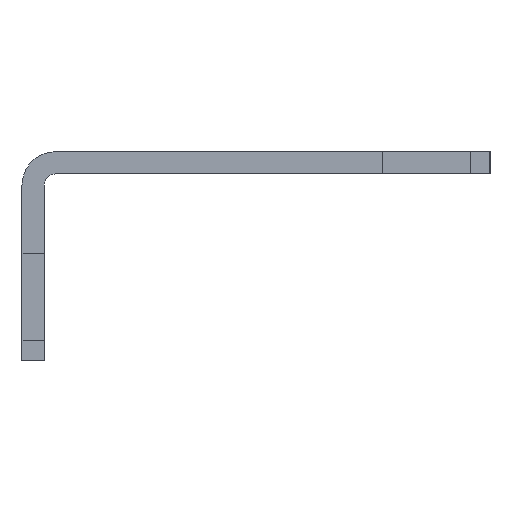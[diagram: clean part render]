
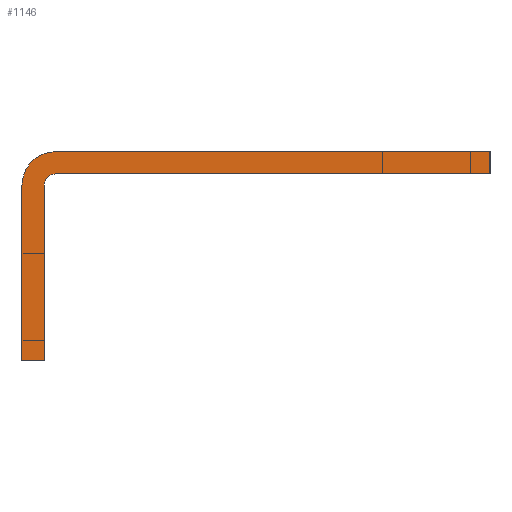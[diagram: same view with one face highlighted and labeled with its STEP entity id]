
A CAD part, left-side view. The second image highlights one B-rep face of the part: STEP entity #1146.
In plain terms, the highlighted planar face has unit normal (-1, 0, 0).
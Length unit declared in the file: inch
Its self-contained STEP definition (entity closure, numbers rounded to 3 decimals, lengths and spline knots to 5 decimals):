
#1146 = ADVANCED_FACE( '', ( #2549 ), #2550, .T. );
#2549 = FACE_OUTER_BOUND( '', #4336, .T. );
#2550 = PLANE( '', #4337 );
#4336 = EDGE_LOOP( '', ( #7827, #7828, #7829, #7830, #7831, #7832, #7833, #7834 ) );
#4337 = AXIS2_PLACEMENT_3D( '', #7835, #7836, #7837 );
#7827 = ORIENTED_EDGE( '', *, *, #11672, .T. );
#7828 = ORIENTED_EDGE( '', *, *, #11293, .T. );
#7829 = ORIENTED_EDGE( '', *, *, #11673, .F. );
#7830 = ORIENTED_EDGE( '', *, *, #11674, .T. );
#7831 = ORIENTED_EDGE( '', *, *, #10721, .T. );
#7832 = ORIENTED_EDGE( '', *, *, #11675, .F. );
#7833 = ORIENTED_EDGE( '', *, *, #11676, .F. );
#7834 = ORIENTED_EDGE( '', *, *, #11677, .F. );
#7835 = CARTESIAN_POINT( '', ( -17.515, -1., 0.095 ) );
#7836 = DIRECTION( '', ( -1., 0., 0. ) );
#7837 = DIRECTION( '', ( 0., 0., 1. ) );
#10721 = EDGE_CURVE( '', #13162, #13159, #13163, .T. );
#11293 = EDGE_CURVE( '', #14048, #14052, #14054, .T. );
#11672 = EDGE_CURVE( '', #14607, #14048, #14608, .T. );
#11673 = EDGE_CURVE( '', #14609, #14052, #14610, .T. );
#11674 = EDGE_CURVE( '', #14609, #13162, #14611, .T. );
#11675 = EDGE_CURVE( '', #14612, #13159, #14613, .T. );
#11676 = EDGE_CURVE( '', #14614, #14612, #14615, .T. );
#11677 = EDGE_CURVE( '', #14607, #14614, #14616, .T. );
#13159 = VERTEX_POINT( '', #16640 );
#13162 = VERTEX_POINT( '', #16644 );
#13163 = LINE( '', #16645, #16646 );
#14048 = VERTEX_POINT( '', #17952 );
#14052 = VERTEX_POINT( '', #17957 );
#14054 = CIRCLE( '', #17960, 0.143 );
#14607 = VERTEX_POINT( '', #18782 );
#14608 = LINE( '', #18783, #18784 );
#14609 = VERTEX_POINT( '', #18785 );
#14610 = LINE( '', #18786, #18787 );
#14611 = LINE( '', #18788, #18789 );
#14612 = VERTEX_POINT( '', #18790 );
#14613 = CIRCLE( '', #18791, 0.048 );
#14614 = VERTEX_POINT( '', #18792 );
#14615 = LINE( '', #18793, #18794 );
#14616 = LINE( '', #18795, #18796 );
#16640 = CARTESIAN_POINT( '', ( -17.515, 0.905, -0.048 ) );
#16644 = CARTESIAN_POINT( '', ( -17.515, 0.905, -0.796 ) );
#16645 = CARTESIAN_POINT( '', ( -17.515, 0.905, 0.00951 ) );
#16646 = VECTOR( '', #20304, 39.37008 );
#17952 = CARTESIAN_POINT( '', ( -17.515, 0.857, 0.095 ) );
#17957 = CARTESIAN_POINT( '', ( -17.515, 1., -0.048 ) );
#17960 = AXIS2_PLACEMENT_3D( '', #20743, #20744, #20745 );
#18782 = CARTESIAN_POINT( '', ( -17.515, -1., 0.095 ) );
#18783 = CARTESIAN_POINT( '', ( -17.515, -1., 0.095 ) );
#18784 = VECTOR( '', #21027, 39.37008 );
#18785 = CARTESIAN_POINT( '', ( -17.515, 1., -0.796 ) );
#18786 = CARTESIAN_POINT( '', ( -17.515, 1., 0.00951 ) );
#18787 = VECTOR( '', #21028, 39.37008 );
#18788 = CARTESIAN_POINT( '', ( -17.515, 1., -0.796 ) );
#18789 = VECTOR( '', #21029, 39.37008 );
#18790 = CARTESIAN_POINT( '', ( -17.515, 0.857, 0. ) );
#18791 = AXIS2_PLACEMENT_3D( '', #21030, #21031, #21032 );
#18792 = CARTESIAN_POINT( '', ( -17.515, -1., 0. ) );
#18793 = CARTESIAN_POINT( '', ( -17.515, -1., 0. ) );
#18794 = VECTOR( '', #21033, 39.37008 );
#18795 = CARTESIAN_POINT( '', ( -17.515, -1., 0.095 ) );
#18796 = VECTOR( '', #21034, 39.37008 );
#20304 = DIRECTION( '', ( 0., 0., 1. ) );
#20743 = CARTESIAN_POINT( '', ( -17.515, 0.857, -0.048 ) );
#20744 = DIRECTION( '', ( -1., 0., 0. ) );
#20745 = DIRECTION( '', ( 0., 0., -1. ) );
#21027 = DIRECTION( '', ( 0., 1., 0. ) );
#21028 = DIRECTION( '', ( 0., 0., 1. ) );
#21029 = DIRECTION( '', ( 0., -1., 0. ) );
#21030 = CARTESIAN_POINT( '', ( -17.515, 0.857, -0.048 ) );
#21031 = DIRECTION( '', ( -1., 0., 0. ) );
#21032 = DIRECTION( '', ( 0., -1., 0. ) );
#21033 = DIRECTION( '', ( 0., 1., 0. ) );
#21034 = DIRECTION( '', ( 0., 0., -1. ) );
